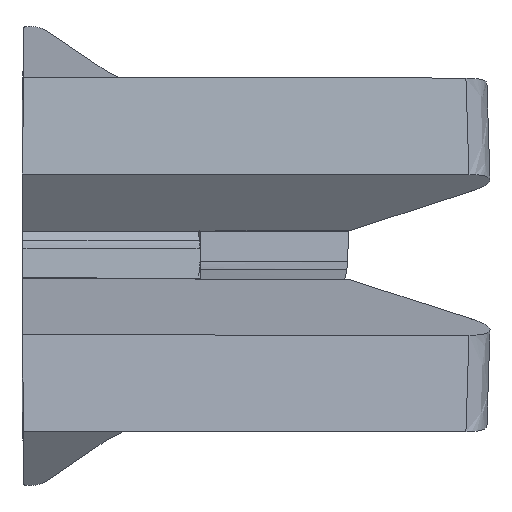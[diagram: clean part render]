
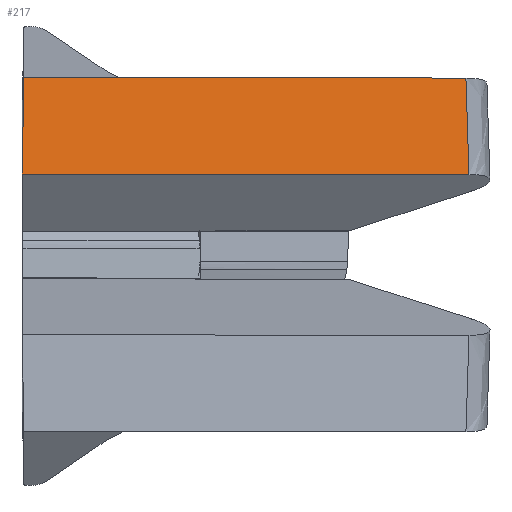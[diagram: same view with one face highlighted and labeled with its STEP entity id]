
A CAD part, top view. The second image highlights one B-rep face of the part: STEP entity #217.
In plain terms, the highlighted planar face has unit normal (0.53, 0.018, 0.848).
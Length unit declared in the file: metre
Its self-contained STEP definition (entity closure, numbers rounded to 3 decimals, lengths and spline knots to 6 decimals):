
#217=ADVANCED_FACE('',(#435),#436,.T.);
#435=FACE_OUTER_BOUND('',#6148,.T.);
#436=PLANE('',#6149);
#6148=EDGE_LOOP('',(#7836,#7837,#7838,#7839));
#6149=AXIS2_PLACEMENT_3D('',#7840,#7841,#7842);
#7836=ORIENTED_EDGE('',*,*,#8105,.F.);
#7837=ORIENTED_EDGE('',*,*,#8037,.T.);
#7838=ORIENTED_EDGE('',*,*,#8024,.F.);
#7839=ORIENTED_EDGE('',*,*,#8029,.F.);
#7840=CARTESIAN_POINT('',(0.092299,0.032638,0.081399));
#7841=DIRECTION('',(0.53,0.017,0.848));
#7842=DIRECTION('',(0.848,0.,-0.53));
#8024=EDGE_CURVE('',#8333,#8335,#8336,.T.);
#8029=EDGE_CURVE('',#8342,#8333,#8344,.T.);
#8037=EDGE_CURVE('',#8348,#8335,#8357,.T.);
#8105=EDGE_CURVE('',#8348,#8342,#8465,.F.);
#8333=VERTEX_POINT('',#9061);
#8335=VERTEX_POINT('',#9096);
#8336=LINE('',#9097,#9098);
#8342=VERTEX_POINT('',#9106);
#8344=B_SPLINE_CURVE_WITH_KNOTS('',3,(#9141,#9142,#9143,#9144,#9145,#9146,#9147),.UNSPECIFIED.,.F.,.F.,(4,3,4),(0.0,0.02038,0.039177),.UNSPECIFIED.);
#8348=VERTEX_POINT('',#9154);
#8357=LINE('',#9167,#9168);
#8465=LINE('',#9566,#9567);
#9061=CARTESIAN_POINT('',(0.181428,0.032638,0.025705));
#9096=CARTESIAN_POINT('',(0.000036,0.032638,0.139051));
#9097=CARTESIAN_POINT('',(0.092299,0.032638,0.081399));
#9098=VECTOR('',#9836,1.0);
#9106=CARTESIAN_POINT('',(0.180185,0.071795,0.025676));
#9141=CARTESIAN_POINT('',(0.180185,0.071795,0.025676));
#9142=CARTESIAN_POINT('',(0.1804,0.065005,0.025681));
#9143=CARTESIAN_POINT('',(0.180616,0.058215,0.025686));
#9144=CARTESIAN_POINT('',(0.180831,0.051425,0.025691));
#9145=CARTESIAN_POINT('',(0.18103,0.045162,0.025696));
#9146=CARTESIAN_POINT('',(0.181229,0.0389,0.0257));
#9147=CARTESIAN_POINT('',(0.181428,0.032638,0.025705));
#9154=CARTESIAN_POINT('',(0.000725,0.071795,0.137815));
#9167=CARTESIAN_POINT('',(-0.001244,-0.040161,0.141349));
#9168=VECTOR('',#9846,1.0);
#9566=CARTESIAN_POINT('',(0.091937,0.071795,0.080819));
#9567=VECTOR('',#9893,1.0);
#9836=DIRECTION('',(-0.848,0.,0.53));
#9846=DIRECTION('',(-0.018,-0.999,0.032));
#9893=DIRECTION('',(-0.848,0.,0.53));
